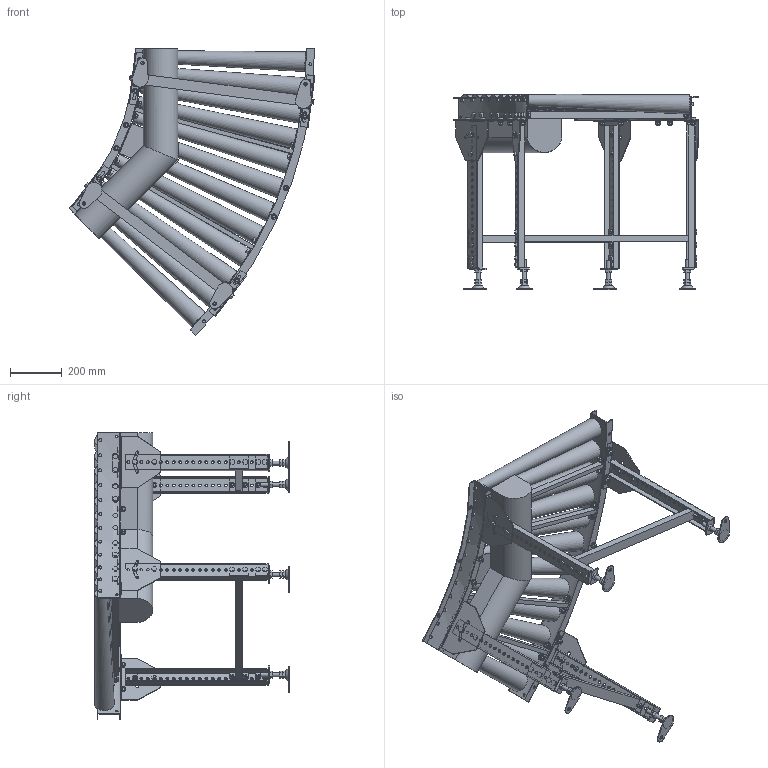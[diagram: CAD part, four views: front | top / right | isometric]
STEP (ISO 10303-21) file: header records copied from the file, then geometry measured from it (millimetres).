
FILE_DESCRIPTION( (''), '2;1');
FILE_NAME ('WEB-MCD-50-630-75-45°-C9.stp','2026-02-20T12:19:31',(''),(''),'spGate 20.6.2 (****-****-****-****)','','');
FILE_SCHEMA (('AUTOMOTIVE_DESIGN'));
Length unit declared in the file: millimetre
Products named in the file (34): WEB-MCD-50-630-75-45_-C9; TEMP_X_T-prt0; TEMP_X_T-prt1; TEMP_X_T-prt2; TEMP_X_T-prt3; TEMP_X_T-prt4; TEMP_X_T-prt5; TEMP_X_T-prt6; TEMP_X_T-prt7; TEMP_X_T-prt8; TEMP_X_T-prt9; TEMP_X_T-prt10; TEMP_X_T-prt11; TEMP_X_T-prt12; TEMP_X_T-prt13; TEMP_X_T-prt14; TEMP_X_T-prt15; TEMP_X_T-prt16; TEMP_X_T-prt17; TEMP_X_T-prt18; TEMP_X_T-prt19; TEMP_X_T-prt20; TEMP_X_T-prt21; TEMP_X_T-prt22; TEMP_X_T-prt23; TEMP_X_T-prt24; TEMP_X_T-prt25; TEMP_X_T-prt26; TEMP_X_T-prt27; TEMP_X_T-prt28; TEMP_X_T-prt29; TEMP_X_T-prt30; TEMP_X_T-prt31; TEMP_X_T-prt32
Assembly tree (33 placements, depth 2):
  WEB-MCD-50-630-75-45_-C9
    TEMP_X_T-prt0
    TEMP_X_T-prt1
    TEMP_X_T-prt2
    TEMP_X_T-prt3
    TEMP_X_T-prt4
    TEMP_X_T-prt5
    TEMP_X_T-prt6
    TEMP_X_T-prt7
    TEMP_X_T-prt8
    TEMP_X_T-prt9
    TEMP_X_T-prt10
    TEMP_X_T-prt11
    TEMP_X_T-prt12
    TEMP_X_T-prt13
    TEMP_X_T-prt14
    TEMP_X_T-prt15
    TEMP_X_T-prt16
    TEMP_X_T-prt17
    TEMP_X_T-prt18
    TEMP_X_T-prt19
    TEMP_X_T-prt20
    TEMP_X_T-prt21
    TEMP_X_T-prt22
    TEMP_X_T-prt23
    TEMP_X_T-prt24
    TEMP_X_T-prt25
    TEMP_X_T-prt26
    TEMP_X_T-prt27
    TEMP_X_T-prt28
    TEMP_X_T-prt29
    TEMP_X_T-prt30
    TEMP_X_T-prt31
    TEMP_X_T-prt32
Bounding box: 945.88 x 749.97 x 1103.09 mm (x, y, z)
Volume: 39830797.8 mm3; surface area: 3794873.8 mm2
Topology: 33 solids, 53 shells, 2350 faces, 5640 edges, 3628 vertices
Faces by surface type: plane 1966, cylinder 368, bspline 16
Full cylindrical faces by diameter (mm): 8.5 x4, 10 x68, 10.5 x92, 11 x4, 12 x24, 13 x4, 14 x6, 16 x4, 18.4 x46, 18.5 x8, 21 x34
Entity records: 117805 total; most frequent: CARTESIAN_POINT 14448, DIRECTION 11789, ORIENTED_EDGE 11280, COLOUR_RGB 8023, PRESENTATION_STYLE_ASSIGNMENT 8023, STYLED_ITEM 8023, EDGE_CURVE 5640, DRAUGHTING_PRE_DEFINED_CURVE_FONT 5640
